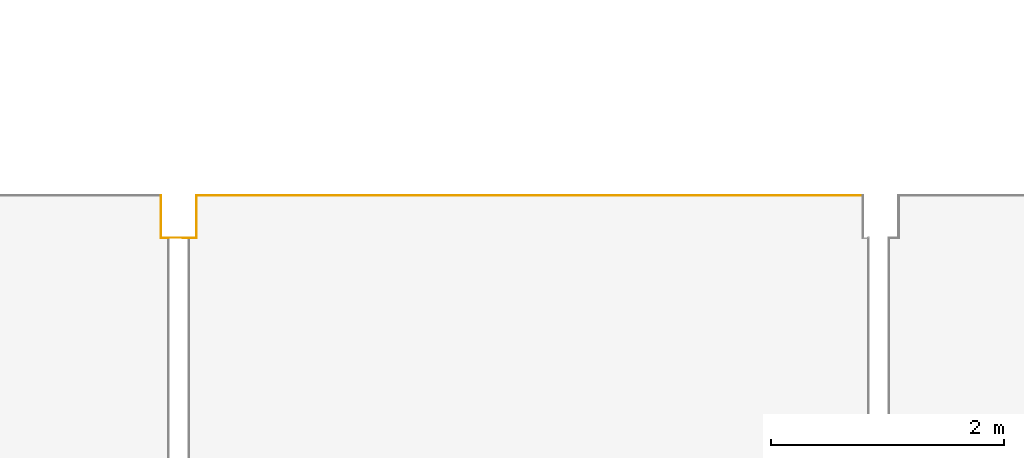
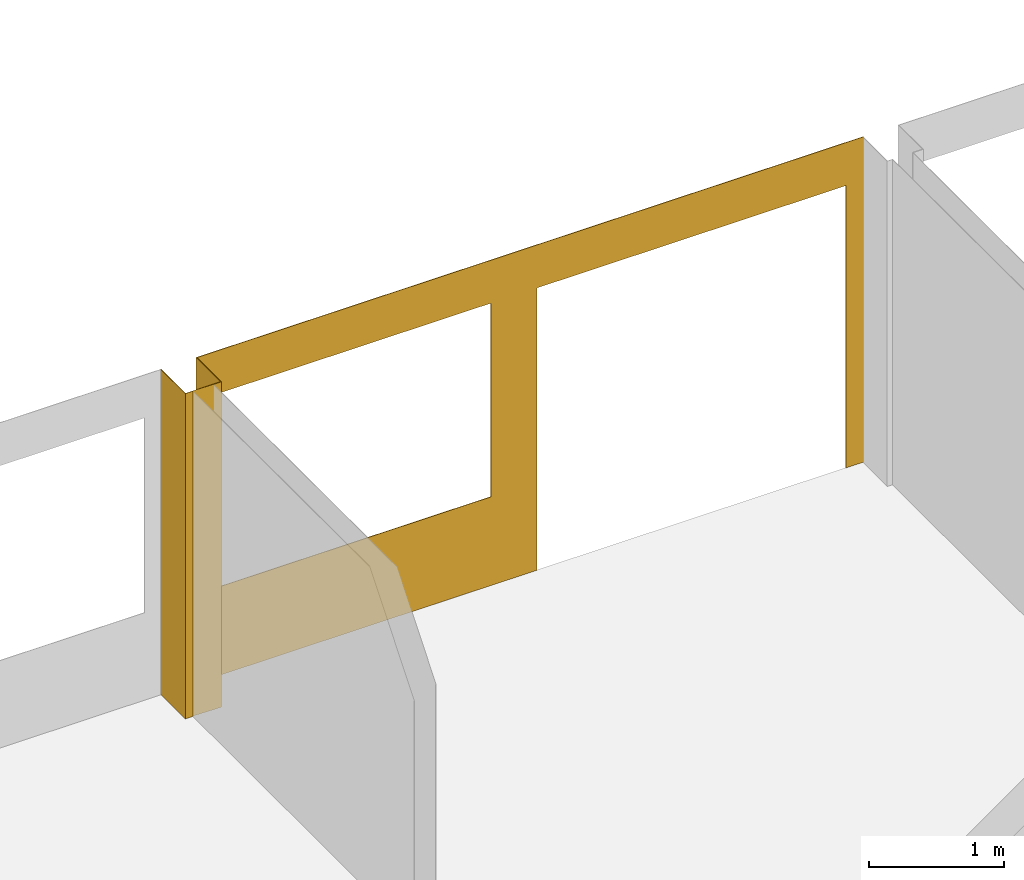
# One storey, part 23 of 33: 5 coverings, 2 openings.
"""IFC2X3 building model written with IfcOpenShell, lengths in millimetres."""

from ifc_helpers import new_model, entity, si_unit, converted_unit, derived_unit, money_unit, direction, frame, origin_with_axes, origin_2d_with_axis, place, context, subcontext, project, spatial, polyline, rectangle, outline, extrude, material, type_object, element, save


model = new_model("IFC2X3")

# Units and contexts
model_context = context("Model", 3, precision=0.01, world=origin_with_axes(), true_north=direction((0.0, 1.0)))
body_context = subcontext(model_context, "Body", "Model", "MODEL_VIEW")
ifc_project = project(units=[si_unit("LENGTHUNIT", "METRE", prefix="MILLI"), si_unit("AREAUNIT", "SQUARE_METRE"), si_unit("VOLUMEUNIT", "CUBIC_METRE"), converted_unit("PLANEANGLEUNIT", "DEGREE", entity("IfcPlaneAngleMeasure", 0.0174532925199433), si_unit("PLANEANGLEUNIT", "RADIAN"), dimensions=[0, 0, 0, 0, 0, 0, 0]), money_unit("EUR"), converted_unit("TIMEUNIT", "Year", entity("IfcTimeMeasure", 31556926.0), si_unit("TIMEUNIT", "SECOND"), dimensions=[0, 0, 1, 0, 0, 0, 0]), si_unit("MASSUNIT", "GRAM", prefix="KILO"), si_unit("THERMODYNAMICTEMPERATUREUNIT", "DEGREE_CELSIUS"), si_unit("LUMINOUSINTENSITYUNIT", "LUMEN"), si_unit("ENERGYUNIT", "JOULE", prefix="MEGA"), derived_unit("THERMALCONDUCTANCEUNIT", [(si_unit("POWERUNIT", "WATT"), 1), (si_unit("LENGTHUNIT", "METRE"), -1), (si_unit("THERMODYNAMICTEMPERATUREUNIT", "KELVIN"), -1)]), derived_unit("SPECIFICHEATCAPACITYUNIT", [(si_unit("ENERGYUNIT", "JOULE"), 1), (si_unit("MASSUNIT", "GRAM", prefix="KILO"), -1), (si_unit("THERMODYNAMICTEMPERATUREUNIT", "KELVIN"), -1)]), derived_unit("MASSDENSITYUNIT", [(si_unit("MASSUNIT", "GRAM", prefix="KILO"), 1), (si_unit("VOLUMEUNIT", "CUBIC_METRE"), -1)])], contexts=[model_context])

# Site, building, storey
site_placement = place(None, origin_with_axes())
site = spatial("IfcSite", under=ifc_project, at=site_placement, Name="Paldiski mnt 245/1, Tallinn, Harjumaa", CompositionType="COMPLEX")
building_placement = place(site_placement, origin_with_axes())
building = spatial("IfcBuilding", under=site, at=building_placement, Name="RKAS Hoone üldnimetus (kasutust iseloomustav) -> IFC Project Manager -> SOLIBRI", CompositionType="ELEMENT")
storey_placement = place(building_placement, origin_with_axes())
storey = spatial("IfcBuildingStorey", under=building, at=storey_placement, Name="Esimene korrus", CompositionType="ELEMENT", Elevation=0.0)

# Coverings
ifc_material = material(Name="SA- Värv SM5(valge)")
covering_type = type_object("IfcCoveringType", Name="SA- Värv SM5(valge) 5", PredefinedType="CLADDING")
covering_1_placement = place(storey_placement, frame((-29544.99999999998, -469.999999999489, 0.0), z_axis=(0.0, 0.0, 1.0), x_axis=(-1.0, 0.0, 0.0)))
element("IfcCovering", 1, at=covering_1_placement, inside=storey, type_object=covering_type, material=ifc_material, Name="SM5", PredefinedType="CLADDING", context=body_context, shape_type="SweptSolid", body=[
    extrude(outline(polyline([(0.0, 0.0), (65.00000000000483, 0.0), (70.00000000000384, 5.000000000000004), (4.999999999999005, 5.000000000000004), (0.0, 0.0)])), origin_with_axes(), (0.0, 0.0, 1.0), 2950.0),
])
covering_2_placement = place(storey_placement, frame((-29609.99999999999, -469.9999999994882, 0.0), z_axis=(0.0, 0.0, 1.0), x_axis=(0.0, 1.0, 0.0)))
element("IfcCovering", 2, at=covering_2_placement, inside=storey, type_object=covering_type, material=ifc_material, Name="SM5", PredefinedType="CLADDING", context=body_context, shape_type="SweptSolid", body=[
    extrude(outline(polyline([(0.0, 0.0), (361.999999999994, 0.0), (361.999999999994, 4.999999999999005), (-5.000000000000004, 4.999999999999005), (0.0, 0.0)])), origin_with_axes(), (0.0, 0.0, 1.0), 2950.0),
])
covering_3_placement = place(storey_placement, frame((-29309.99999999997, -107.9999999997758, 0.0), z_axis=(0.0, 0.0, 1.0), x_axis=(0.0, -1.0, 0.0)))
element("IfcCovering", 3, at=covering_3_placement, inside=storey, type_object=covering_type, material=ifc_material, Name="SM5", PredefinedType="CLADDING", context=body_context, shape_type="SweptSolid", body=[
    extrude(outline(polyline([(-2.748357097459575e-10, 0.0), (361.9999999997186, 0.0), (366.9999999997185, 4.999999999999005), (-2.748218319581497e-10, 4.999999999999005), (-2.748357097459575e-10, 0.0)])), origin_with_axes(), (0.0, 0.0, 1.0), 2950.0),
])

# Covering, openings
covering_4_placement = place(storey_placement, frame((-23589.99999999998, -107.9999999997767, 0.0), z_axis=(0.0, 0.0, 1.0), x_axis=(-1.0, 0.0, 0.0)))
covering_4 = element("IfcCovering", 4, at=covering_4_placement, inside=storey, type_object=covering_type, material=ifc_material, Name="SM5", PredefinedType="CLADDING", context=body_context, shape_type="SweptSolid", body=[
    extrude(outline(polyline([(0.0, 0.0), (5719.999999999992, 0.0), (5719.999999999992, 5.000000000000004), (0.0, 5.000000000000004), (0.0, 0.0)])), origin_with_axes(), (0.0, 0.0, 1.0), 2950.0),
])
opening_1_placement = place(covering_4_placement, frame((-23589.99999999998, -107.9999999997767, 0.0), z_axis=(0.0, 0.0, 1.0), x_axis=(-1.0, 0.0, 0.0)))
element("IfcOpeningElement", 5, at=opening_1_placement, cuts=covering_4, Name="AVA", ObjectType="OPENING", context=body_context, shape_type="SweptSolid", body=[
    extrude(rectangle(XDim=2392.365048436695, YDim=1756.015519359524, at=origin_2d_with_axis()), frame((-27979.59368550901, -102.9999999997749, 1681.992240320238), z_axis=(0.0, 1.0, 0.0), x_axis=(-1.0, 0.0, 0.0)), (0.0, 0.0, -1.0), 15.00000000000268),
])
opening_2_placement = place(covering_4_placement, frame((-23589.99999999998, -107.9999999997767, 0.0), z_axis=(0.0, 0.0, 1.0), x_axis=(-1.0, 0.0, 0.0)))
element("IfcOpeningElement", 6, at=opening_2_placement, cuts=covering_4, Name="AVA", ObjectType="OPENING", context=body_context, shape_type="SweptSolid", body=[
    extrude(rectangle(XDim=2649.999999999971, YDim=2559.99999999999, at=origin_2d_with_axis()), frame((-25064.9999999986, -102.9999999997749, 1279.999999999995), z_axis=(0.0, 1.0, 0.0), x_axis=(-1.0, 0.0, 0.0)), (0.0, 0.0, -1.0), 15.00000000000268),
])

# Covering
covering_5_placement = place(storey_placement, frame((-29309.99999999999, -469.9999999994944, 0.0), z_axis=(0.0, 0.0, 1.0), x_axis=(-1.0, 0.0, 0.0)))
element("IfcCovering", 7, at=covering_5_placement, inside=storey, type_object=covering_type, material=ifc_material, Name="SM5", PredefinedType="CLADDING", context=body_context, shape_type="SweptSolid", body=[
    extrude(outline(polyline([(0.0, 0.0), (234.9999999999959, 0.0), (64.99999999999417, 5.000000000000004), (-5.000000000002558, 5.000000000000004), (0.0, 0.0)])), origin_with_axes(), (0.0, 0.0, 1.0), 2950.0),
])

save(model, "model.ifc")
